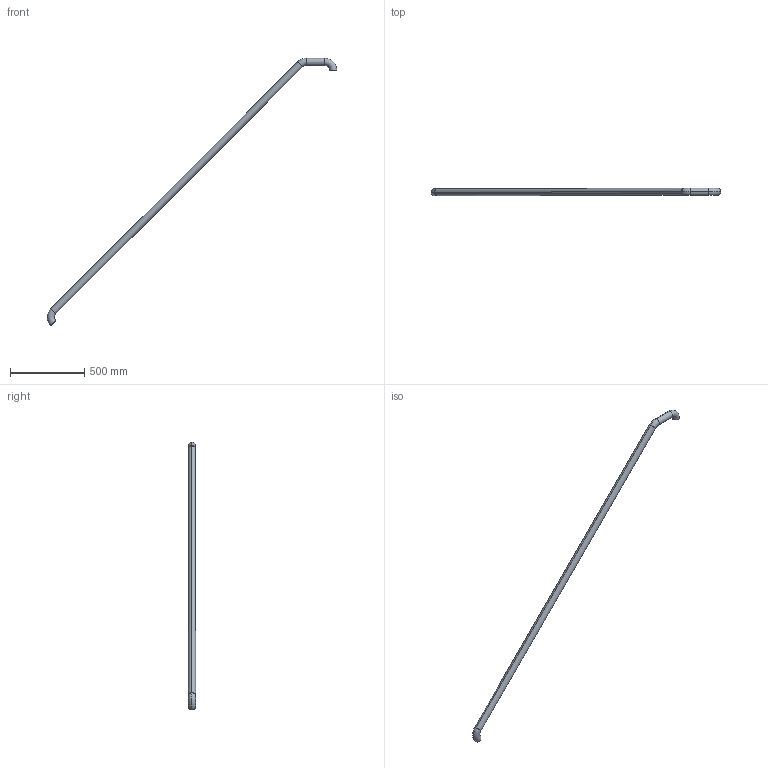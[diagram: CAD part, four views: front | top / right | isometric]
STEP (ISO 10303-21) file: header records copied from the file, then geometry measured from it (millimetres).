
FILE_DESCRIPTION (( 'STEP AP214' ), '1' );
FILE_NAME ('CCJ029-REP.203 - MAIN COURANTE ESCALIER INTERMEDIAIRE.STEP', '2025-04-17T12:35:35', ( '' ), ( '' ), 'SwSTEP 2.0', 'SolidWorks 2021', '' );
FILE_SCHEMA (( 'AUTOMOTIVE_DESIGN' ));
Length unit declared in the file: millimetre
Products named in the file (1): CCJ029-REP.203 - MAIN COURANTE ESCALIER INTERMEDIAIRE
Bounding box: 1954.69 x 48.3 x 1804.82 mm (x, y, z)
Volume: 973675.9 mm3; surface area: 779660.2 mm2
Topology: 1 solids, 1 shells, 30 faces, 60 edges, 32 vertices
Faces by surface type: cylinder 16, torus 12, plane 2
Entity records: 814 total; most frequent: DIRECTION 166, CARTESIAN_POINT 123, ORIENTED_EDGE 120, AXIS2_PLACEMENT_3D 75, EDGE_CURVE 60, CIRCLE 44, EDGE_LOOP 32, VERTEX_POINT 32
